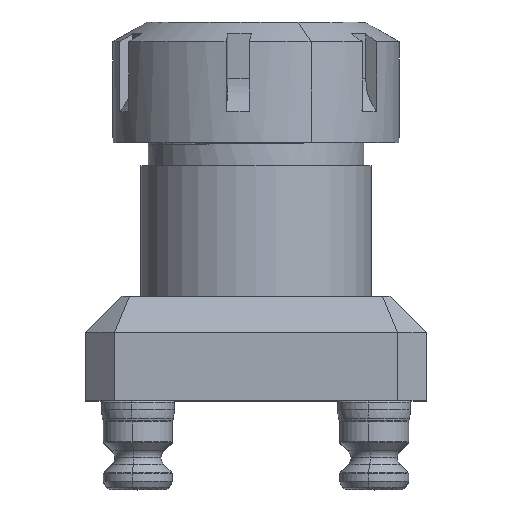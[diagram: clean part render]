
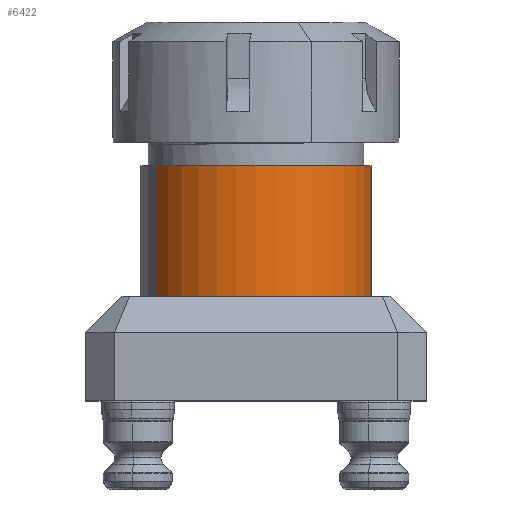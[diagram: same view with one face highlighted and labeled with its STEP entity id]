
A CAD part, top view. The second image highlights one B-rep face of the part: STEP entity #6422.
In plain terms, the highlighted cylindrical face has radius 25.4 mm (diameter 50.8 mm), a partial arc.
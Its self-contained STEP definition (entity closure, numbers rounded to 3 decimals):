
#22 = VECTOR ( 'NONE', #4376, 1000. ) ;
#74 = AXIS2_PLACEMENT_3D ( 'NONE', #7459, #12433, #12391 ) ;
#456 = VERTEX_POINT ( 'NONE', #11002 ) ;
#593 = EDGE_CURVE ( 'NONE', #5235, #456, #9607, .T. ) ;
#728 = ORIENTED_EDGE ( 'NONE', *, *, #9253, .F. ) ;
#764 = DIRECTION ( 'NONE',  ( 0., -1., 0. ) ) ;
#976 = CYLINDRICAL_SURFACE ( 'NONE', #12489, 25.4 ) ;
#1663 = CARTESIAN_POINT ( 'NONE',  ( 0., 38.1, -25.4 ) ) ;
#1794 = DIRECTION ( 'NONE',  ( 0., -1., 0. ) ) ;
#2837 = ORIENTED_EDGE ( 'NONE', *, *, #6605, .T. ) ;
#3078 = CARTESIAN_POINT ( 'NONE',  ( 0., 38.1, 25.4 ) ) ;
#3336 = VECTOR ( 'NONE', #1794, 1000. ) ;
#3431 = ORIENTED_EDGE ( 'NONE', *, *, #9633, .F. ) ;
#3951 = DIRECTION ( 'NONE',  ( 0., -1., 0. ) ) ;
#4273 = CIRCLE ( 'NONE', #74, 25.4 ) ;
#4376 = DIRECTION ( 'NONE',  ( 0., -1., 0. ) ) ;
#4771 = CARTESIAN_POINT ( 'NONE',  ( 0., -12.7, -25.4 ) ) ;
#4949 = DIRECTION ( 'NONE',  ( 0., 0., -1. ) ) ;
#5235 = VERTEX_POINT ( 'NONE', #4771 ) ;
#6422 = ADVANCED_FACE ( 'NONE', ( #7533 ), #976, .T. ) ;
#6605 = EDGE_CURVE ( 'NONE', #10368, #456, #7063, .T. ) ;
#7063 = LINE ( 'NONE', #3078, #22 ) ;
#7459 = CARTESIAN_POINT ( 'NONE',  ( 0., 19.05, 0. ) ) ;
#7533 = FACE_OUTER_BOUND ( 'NONE', #11674, .T. ) ;
#7546 = LINE ( 'NONE', #1663, #3336 ) ;
#7759 = DIRECTION ( 'NONE',  ( 0., 0., -1. ) ) ;
#8424 = AXIS2_PLACEMENT_3D ( 'NONE', #11584, #764, #7759 ) ;
#8921 = CARTESIAN_POINT ( 'NONE',  ( 0., 38.1, 0. ) ) ;
#9253 = EDGE_CURVE ( 'NONE', #11412, #5235, #7546, .T. ) ;
#9547 = CARTESIAN_POINT ( 'NONE',  ( 0., 19.05, 25.4 ) ) ;
#9607 = CIRCLE ( 'NONE', #8424, 25.4 ) ;
#9633 = EDGE_CURVE ( 'NONE', #10368, #11412, #4273, .T. ) ;
#9724 = ORIENTED_EDGE ( 'NONE', *, *, #593, .F. ) ;
#10368 = VERTEX_POINT ( 'NONE', #9547 ) ;
#11002 = CARTESIAN_POINT ( 'NONE',  ( 0., -12.7, 25.4 ) ) ;
#11412 = VERTEX_POINT ( 'NONE', #12903 ) ;
#11584 = CARTESIAN_POINT ( 'NONE',  ( 0., -12.7, 0. ) ) ;
#11674 = EDGE_LOOP ( 'NONE', ( #3431, #2837, #9724, #728 ) ) ;
#12391 = DIRECTION ( 'NONE',  ( 0., 0., 1. ) ) ;
#12433 = DIRECTION ( 'NONE',  ( 0., 1., 0. ) ) ;
#12489 = AXIS2_PLACEMENT_3D ( 'NONE', #8921, #3951, #4949 ) ;
#12903 = CARTESIAN_POINT ( 'NONE',  ( 0., 19.05, -25.4 ) ) ;
